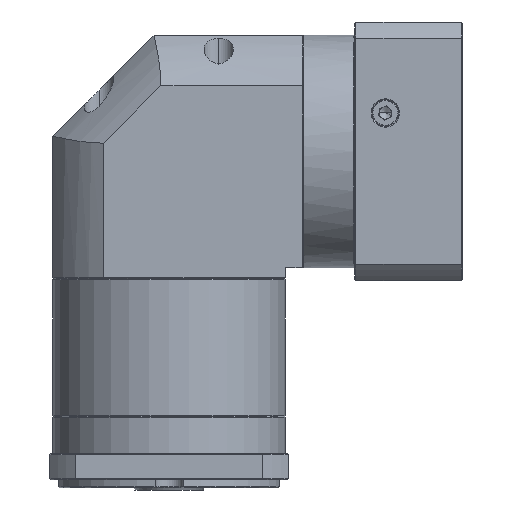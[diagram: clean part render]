
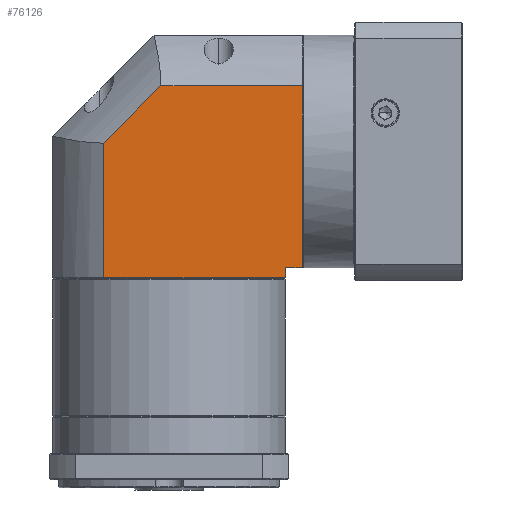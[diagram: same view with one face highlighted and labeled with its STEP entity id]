
A CAD part, front view. The second image highlights one B-rep face of the part: STEP entity #76126.
In plain terms, the highlighted planar face has unit normal (0, -1, 0).
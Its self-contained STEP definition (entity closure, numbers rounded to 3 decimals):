
#372 = CARTESIAN_POINT ( 'NONE',  ( 110.735, 0.453, -56.863 ) ) ;
#386 = VECTOR ( 'NONE', #63293, 1000. ) ;
#3041 = VERTEX_POINT ( 'NONE', #127230 ) ;
#4923 = VERTEX_POINT ( 'NONE', #105102 ) ;
#5019 = ORIENTED_EDGE ( 'NONE', *, *, #89156, .F. ) ;
#5869 = CARTESIAN_POINT ( 'NONE',  ( 40.773, 0.453, 44.537 ) ) ;
#7375 = CARTESIAN_POINT ( 'NONE',  ( 12.435, 0.453, -56.863 ) ) ;
#7956 = CARTESIAN_POINT ( 'NONE',  ( -12.665, 0.453, -56.863 ) ) ;
#13167 = FACE_OUTER_BOUND ( 'NONE', #29347, .T. ) ;
#15883 = ORIENTED_EDGE ( 'NONE', *, *, #85859, .F. ) ;
#16779 = CARTESIAN_POINT ( 'NONE',  ( -12.665, 0.453, 44.537 ) ) ;
#18593 = CARTESIAN_POINT ( 'NONE',  ( 12.435, 0.453, -50.363 ) ) ;
#19216 = EDGE_CURVE ( 'NONE', #20917, #84703, #41371, .T. ) ;
#20917 = VERTEX_POINT ( 'NONE', #5869 ) ;
#22276 = CARTESIAN_POINT ( 'NONE',  ( 110.735, 0.453, 44.537 ) ) ;
#23088 = CARTESIAN_POINT ( 'NONE',  ( -12.665, 0.453, -45.363 ) ) ;
#25410 = ORIENTED_EDGE ( 'NONE', *, *, #116152, .F. ) ;
#28849 = CARTESIAN_POINT ( 'NONE',  ( -12.665, 0.453, -50.363 ) ) ;
#29347 = EDGE_LOOP ( 'NONE', ( #25410, #68036, #15883, #60979, #5019, #44002, #75465 ) ) ;
#32585 = CARTESIAN_POINT ( 'NONE',  ( 12.435, 0.453, 16.199 ) ) ;
#36234 = DIRECTION ( 'NONE',  ( 1., 0., 0. ) ) ;
#36969 = DIRECTION ( 'NONE',  ( 1., 0., 0. ) ) ;
#41371 = LINE ( 'NONE', #16779, #78554 ) ;
#42458 = VECTOR ( 'NONE', #67950, 1000. ) ;
#43376 = AXIS2_PLACEMENT_3D ( 'NONE', #7956, #115785, #36969 ) ;
#44002 = ORIENTED_EDGE ( 'NONE', *, *, #113351, .F. ) ;
#45570 = LINE ( 'NONE', #7375, #42458 ) ;
#51293 = VERTEX_POINT ( 'NONE', #74811 ) ;
#51408 = LINE ( 'NONE', #32585, #386 ) ;
#51633 = DIRECTION ( 'NONE',  ( -1., 0., 0. ) ) ;
#55167 = VECTOR ( 'NONE', #51633, 1000. ) ;
#55397 = LINE ( 'NONE', #372, #128314 ) ;
#59321 = EDGE_CURVE ( 'NONE', #51293, #3041, #124953, .T. ) ;
#60979 = ORIENTED_EDGE ( 'NONE', *, *, #19216, .F. ) ;
#63293 = DIRECTION ( 'NONE',  ( 0.707, 0., 0.707 ) ) ;
#67890 = DIRECTION ( 'NONE',  ( 0., 0., -1. ) ) ;
#67950 = DIRECTION ( 'NONE',  ( 0., 0., 1. ) ) ;
#68036 = ORIENTED_EDGE ( 'NONE', *, *, #59321, .F. ) ;
#72229 = CARTESIAN_POINT ( 'NONE',  ( 102.335, 0.453, -50.363 ) ) ;
#74811 = CARTESIAN_POINT ( 'NONE',  ( 110.735, 0.453, -45.363 ) ) ;
#75465 = ORIENTED_EDGE ( 'NONE', *, *, #98470, .F. ) ;
#76126 = ADVANCED_FACE ( 'NONE', ( #13167 ), #77667, .F. ) ;
#76320 = LINE ( 'NONE', #82775, #125926 ) ;
#77667 = PLANE ( 'NONE',  #43376 ) ;
#78456 = VERTEX_POINT ( 'NONE', #72229 ) ;
#78554 = VECTOR ( 'NONE', #36234, 1000. ) ;
#81706 = VECTOR ( 'NONE', #124595, 1000. ) ;
#82775 = CARTESIAN_POINT ( 'NONE',  ( 102.335, 0.453, -56.863 ) ) ;
#84703 = VERTEX_POINT ( 'NONE', #22276 ) ;
#85859 = EDGE_CURVE ( 'NONE', #84703, #51293, #55397, .T. ) ;
#89156 = EDGE_CURVE ( 'NONE', #4923, #20917, #51408, .T. ) ;
#91822 = DIRECTION ( 'NONE',  ( 0., 0., -1. ) ) ;
#98470 = EDGE_CURVE ( 'NONE', #78456, #117722, #100111, .T. ) ;
#100111 = LINE ( 'NONE', #28849, #81706 ) ;
#105102 = CARTESIAN_POINT ( 'NONE',  ( 12.435, 0.453, 16.199 ) ) ;
#113351 = EDGE_CURVE ( 'NONE', #117722, #4923, #45570, .T. ) ;
#115785 = DIRECTION ( 'NONE',  ( 0., 1., 0. ) ) ;
#116152 = EDGE_CURVE ( 'NONE', #3041, #78456, #76320, .T. ) ;
#117722 = VERTEX_POINT ( 'NONE', #18593 ) ;
#124595 = DIRECTION ( 'NONE',  ( -1., 0., 0. ) ) ;
#124953 = LINE ( 'NONE', #23088, #55167 ) ;
#125926 = VECTOR ( 'NONE', #91822, 1000. ) ;
#127230 = CARTESIAN_POINT ( 'NONE',  ( 102.335, 0.453, -45.363 ) ) ;
#128314 = VECTOR ( 'NONE', #67890, 1000. ) ;
